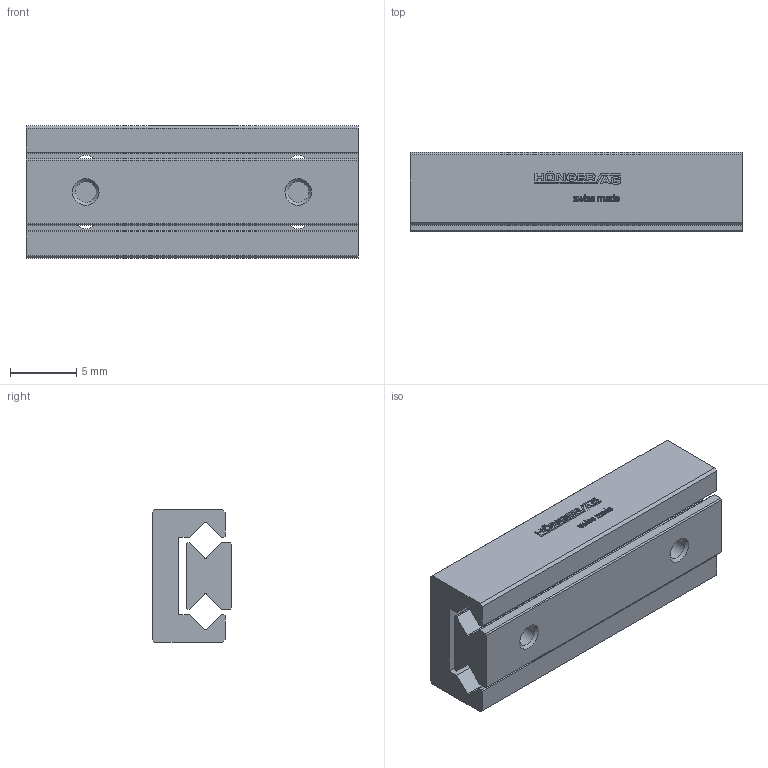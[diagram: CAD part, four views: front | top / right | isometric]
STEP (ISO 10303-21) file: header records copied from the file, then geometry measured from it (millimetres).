
FILE_DESCRIPTION(/* description */ ('STEP AP214'),/* implementation_level */ '2;1');
FILE_NAME(/* name */ 'MSR 5-25.15(0)',/* time_stamp */ '2025-04-16T17:17:50+02:00',/* author */ ('License CC BY-ND 4.0'),/* organization */ ('CADENAS'),/* preprocessor_version */ 'ST-DEVELOPER v19.3',/* originating_system */ 'PARTsolutions',/* authorisation */ ' ');
FILE_SCHEMA (('AUTOMOTIVE_DESIGN {1 0 10303 214 3 1 1}'));
Length unit declared in the file: millimetre
Products named in the file (3): MSR 5-25.15(0); MSR 5-25.15_1; MSR 5-25.15_2
Assembly tree (2 placements, depth 2):
  MSR 5-25.15(0)
    MSR 5-25.15_1
    MSR 5-25.15_2
Bounding box: 25 x 6 x 10 mm (x, y, z)
Volume: 1113.4 mm3; surface area: 1596.6 mm2
Topology: 2 solids, 2 shells, 521 faces, 1466 edges, 976 vertices
Faces by surface type: cylinder 302, plane 211, cone 8
Full cylindrical faces by diameter (mm): 1.567 x6
Entity records: 17053 total; most frequent: DIRECTION 3108, CARTESIAN_POINT 2944, ORIENTED_EDGE 2896, EDGE_CURVE 1448, AXIS2_PLACEMENT_3D 1136, VERTEX_POINT 972, LINE 836, VECTOR 836
